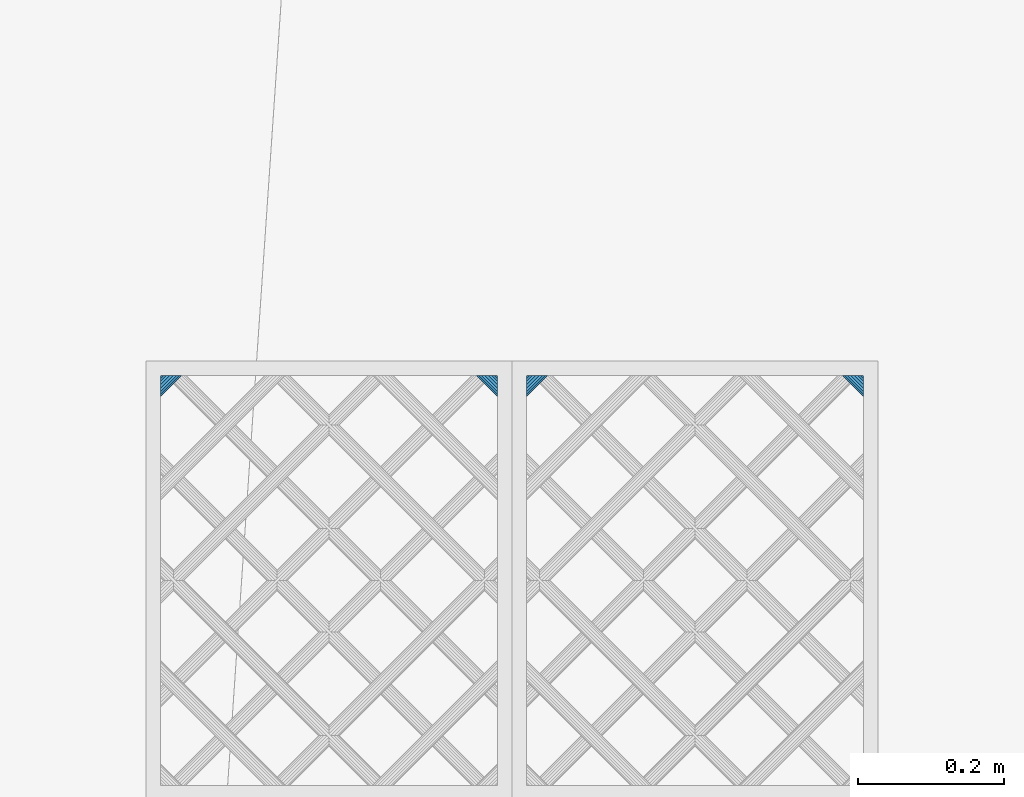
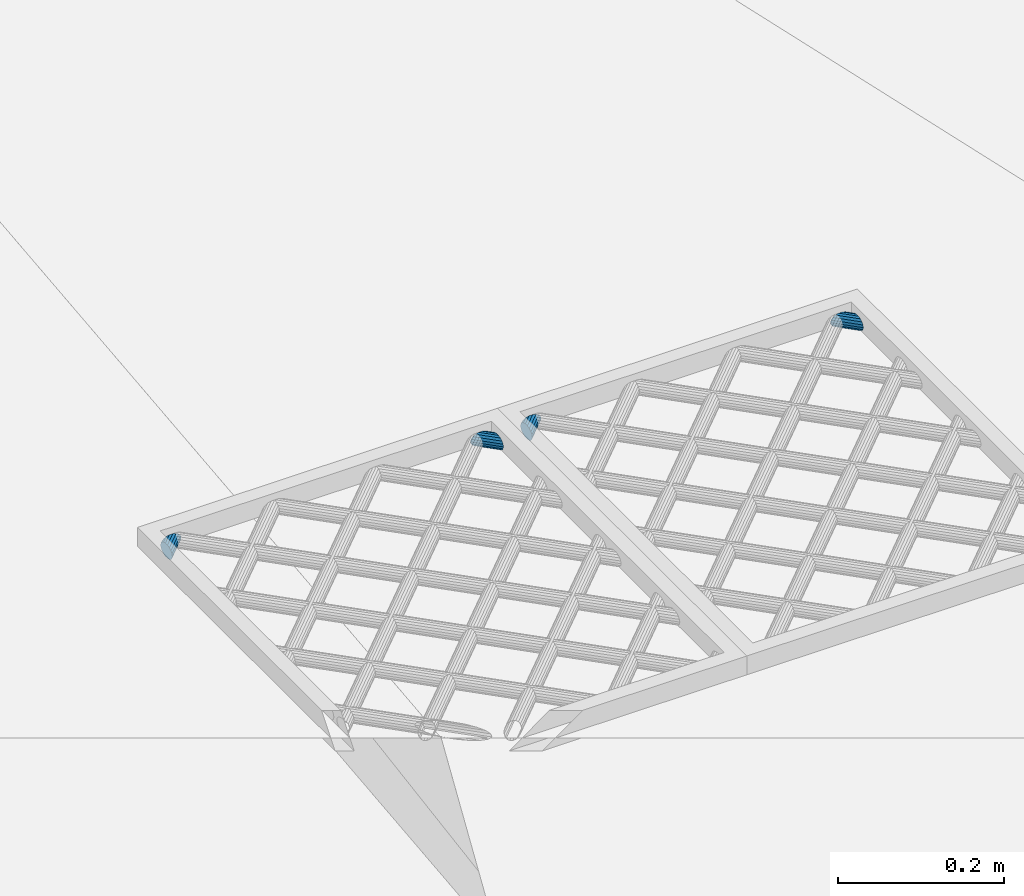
# One storey, part 87 of 133: 4 members, 2 elements without a shape of their own.
"""IFC2X3 building model written with IfcOpenShell, lengths in centimetres."""

from ifc_helpers import new_model, entity, si_unit, converted_unit, direction, frame, origin, origin_with_axes, place, context, subcontext, project, spatial, faceted_brep, material, type_object, element, aggregate, save


model = new_model("IFC2X3")

# Units and contexts
model_context = context("Model", 3, precision=0.0001, world=origin(), true_north=direction((0.225632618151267, 0.974212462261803, 0.0)))
body_context = subcontext(model_context, "Body", "Model", "MODEL_VIEW")
ifc_project = project(units=[si_unit("LENGTHUNIT", "METRE", prefix="CENTI"), si_unit("AREAUNIT", "SQUARE_METRE", prefix="CENTI"), si_unit("VOLUMEUNIT", "CUBIC_METRE", prefix="CENTI"), converted_unit("PLANEANGLEUNIT", "DEGREE", entity("IfcRatioMeasure", 0.0174532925), si_unit("PLANEANGLEUNIT", "RADIAN"), dimensions=[0, 0, 0, 0, 0, 0, 0])], contexts=[model_context])

# Site, building, storey
site_placement = place(None, origin_with_axes())
site = spatial("IfcSite", under=ifc_project, at=site_placement, Name="Default Site", CompositionType="ELEMENT")
building_placement = place(site_placement, origin_with_axes())
building = spatial("IfcBuilding", under=site, at=building_placement, Name="Default Building", CompositionType="ELEMENT")
storey_placement = place(building_placement, frame((0.0, 0.0, -291.400371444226), z_axis=(0.0, 0.0, 1.0), x_axis=(1.0, 0.0, 0.0)))
storey = spatial("IfcBuildingStorey", under=building, at=storey_placement, Name="Rez-de-Jardin", CompositionType="ELEMENT", Elevation=-291.400371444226)

# Assembly, members
building_element_proxy_type = type_object("IfcBuildingElementProxyType", Name="Type Object", PredefinedType="NOTDEFINED")
assembly_1_placement = place(storey_placement, frame((-26.2717802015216, 1298.33524038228, 113.0), z_axis=(0.0, 1.0, -2.38697950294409e-15), x_axis=(1.0, 0.0, 0.0)))
assembly_1 = element("IfcElementAssembly", 1, at=assembly_1_placement, inside=storey, type_object=building_element_proxy_type, Name="Panneau 326484", ObjectType="Precast panel", PredefinedType="USERDEFINED")
ifc_material = material(Name="Aluminium satiné")
member_1_placement = place(assembly_1_placement, frame((4.83145155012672, 0.342020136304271, 57.9999983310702), z_axis=(1.16937634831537e-15, -1.43218776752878e-15, 1.0), x_axis=(0.632455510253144, -0.774596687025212, -1.84894641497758e-15)))
member_1 = element("IfcMember", 2, at=member_1_placement, material=ifc_material, Name="4294966901", context=body_context, shape_type="Brep", body=[
    faceted_brep([(1.38777878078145e-15, -3.2612801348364e-14, -3.21964677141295e-13), (-0.388289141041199, -3.2612801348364e-14, -3.22682602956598e-13), (-0.799165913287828, -0.150249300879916, -3.23442292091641e-13), (-1.18307220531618, -0.432625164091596, -3.24152114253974e-13), (-1.49370349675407, -0.81306926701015, -3.24726454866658e-13), (-1.69359304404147, -1.24569440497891, -3.25096039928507e-13), (-1.75863119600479, -1.67831950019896, -3.25216291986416e-13), (-1.68097334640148, -2.05876360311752, -3.25072706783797e-13), (-1.46998625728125, -2.34113956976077, -3.24682602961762e-13), (-1.15111801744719, -2.49138864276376, -3.2409303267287e-13), (-0.762828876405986, -2.49138864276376, -3.23375106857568e-13), (-0.351952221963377, -2.34113948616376, -3.22615417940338e-13), (0.0319541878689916, -2.0587634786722, -3.21905595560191e-13), (0.342585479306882, -1.67831937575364, -3.21331254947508e-13), (0.542474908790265, -1.24569438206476, -3.20961670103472e-13), (0.607513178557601, -0.813069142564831, -3.2084141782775e-13), (0.529855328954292, -0.432625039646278, -3.20985003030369e-13), (0.318868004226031, -0.15024936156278, -3.21375107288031e-13), (-1.52583949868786, -2.40954554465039, -2.91673541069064), (-1.26091183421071, -2.62585806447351, -2.83144712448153), (-1.02793833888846, -2.81608011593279, -2.58587598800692), (-0.855019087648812, -2.95726808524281, -2.20962762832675), (-0.763010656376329, -3.03239265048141, -1.74809694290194), (-0.76301065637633, -3.03239265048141, -1.25694870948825), (-0.855019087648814, -2.95726808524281, -0.795418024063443), (-1.02793833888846, -2.81608011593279, -0.419175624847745), (-1.26091183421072, -2.62585806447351, -0.173598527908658), (-1.52583949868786, -2.40954554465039, -0.0883102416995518), (-1.79076716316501, -2.19323302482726, -0.173598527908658), (-2.02374065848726, -2.00301097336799, -0.419175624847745), (-2.19665990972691, -1.86182300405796, -0.795418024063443), (-2.28866834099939, -1.78669843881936, -1.25694870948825), (-2.28866834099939, -1.78669843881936, -1.74809694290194), (-2.1966599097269, -1.86182300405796, -2.20962762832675), (-2.02374065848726, -2.00301097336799, -2.58587598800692), (-1.790767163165, -2.19323302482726, -2.83144712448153), (0.318868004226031, -0.15024936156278, -3.21964677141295e-13), (0.529855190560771, -0.432625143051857, 1.67625041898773e-07), (-1.26091018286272, -2.62585683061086, -2.83144912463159), (-1.52583815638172, -2.40954454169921, -2.91673703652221), (0.529855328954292, -0.432625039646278, -3.21964677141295e-13), (0.607513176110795, -0.813069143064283, 1.93403712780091e-09), (-1.02793834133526, -2.81608011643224, -2.58587598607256), (-1.26090971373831, -2.62585763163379, -2.8314488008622), (0.607513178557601, -0.813069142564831, -3.33066907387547e-13), (0.542475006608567, -1.24569439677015, -5.04753142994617e-08), (-0.855017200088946, -2.95726836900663, -2.20962860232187), (-1.02793833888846, -2.81608011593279, -2.58587598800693), (0.542474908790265, -1.24569438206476, -3.33066907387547e-13), (0.342585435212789, -1.67831935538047, 1.21062237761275e-08), (-0.763009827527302, -3.03239303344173, -1.74809717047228), (-0.855018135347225, -2.95726852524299, -2.20962788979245), (0.342585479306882, -1.67831937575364, -3.33066907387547e-13), (0.0319541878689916, -2.0587634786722, -3.33066907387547e-13), (-0.35195221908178, -2.34113949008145, 1.21181951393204e-09), (-0.85501916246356, -2.95726798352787, -0.795418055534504), (-0.763010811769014, -3.03239243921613, -1.25694877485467), (-0.351952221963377, -2.34113948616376, -3.33066907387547e-13), (-0.762828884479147, -2.49138862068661, -1.19953087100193e-08), (-1.02793824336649, -2.81608037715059, -0.419175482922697), (-0.855019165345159, -2.9572678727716, -0.795418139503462), (-0.762828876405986, -2.49138864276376, -3.33066907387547e-13), (-1.15111801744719, -2.49138864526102, 1.93403279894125e-09), (-1.26091183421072, -2.62585770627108, -0.17359880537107), (-1.02793833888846, -2.81608047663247, -0.419175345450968), (-1.15111801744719, -2.49138864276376, -3.33066907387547e-13), (-1.46998625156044, -2.3411395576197, -1.30229216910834e-08), (-1.52583917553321, -2.40954485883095, -0.0883109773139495), (-1.2609116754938, -2.62585772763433, -0.173598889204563), (-1.46998625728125, -2.34113956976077, -3.33066907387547e-13), (-1.68097335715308, -2.05876361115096, 1.3022254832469e-08), (-1.79076687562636, -2.19323280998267, -0.173598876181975), (-1.52583890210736, -2.40954509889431, -0.0883109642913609), (-1.68097334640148, -2.05876360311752, -3.33066907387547e-13), (-1.75863119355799, -1.67831949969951, -1.9346991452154e-09), (-2.02374100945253, -2.00301104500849, -0.419175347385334), (-1.79076680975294, -2.19323295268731, -0.173598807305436), (-1.75863119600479, -1.67831950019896, -3.33066907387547e-13), (-1.69359306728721, -1.24569440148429, 1.19946423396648e-08), (-2.19665970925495, -1.86182303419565, -0.795418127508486), (-2.02374095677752, -2.00301092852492, -0.419175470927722), (-1.69359304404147, -1.24569440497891, -3.33066907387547e-13), (-1.49370349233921, -0.813069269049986, -1.21248560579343e-09), (-2.28866809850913, -1.78669855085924, -1.25694877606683), (-2.19665979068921, -1.86182305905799, -0.795418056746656), (-1.49370349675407, -0.81306926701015, -3.33066907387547e-13), (-1.18307220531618, -0.432625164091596, -3.33066907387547e-13), (-0.799165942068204, -0.15024926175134, -1.21068900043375e-08), (-2.19666056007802, -1.86182211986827, -2.20962790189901), (-2.28866891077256, -1.78669766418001, -1.74809718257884), (-0.799165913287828, -0.150249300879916, -3.33066907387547e-13), (-0.388289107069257, -9.29009245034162e-08, 5.04746483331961e-08), (-2.02374062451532, -2.00301106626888, -2.58587593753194), (-2.19666053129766, -1.86182130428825, -2.20962855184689), (-0.388289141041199, -3.2612801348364e-14, -3.33066907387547e-13), (1.36208123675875e-15, 2.49722821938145e-09, -1.9346919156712e-09), (-1.79076716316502, -2.19323085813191, -2.83144880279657), (-2.02374065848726, -2.00301097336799, -2.58587598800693), (0.31886807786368, -0.150249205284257, -1.67625685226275e-07), (-1.52583871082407, -2.40954387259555, -2.91673720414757), (-1.79076621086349, -2.19323100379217, -2.83144929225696)], [[[0, 1, 2, 3, 4, 5, 6, 7, 8, 9, 10, 11, 12, 13, 14, 15, 16, 17]], [[18, 19, 20, 21, 22, 23, 24, 25, 26, 27, 28, 29, 30, 31, 32, 33, 34, 35]], [[36, 37, 38, 39]], [[40, 41, 42, 43]], [[44, 45, 46, 47]], [[48, 49, 50, 51]], [[52, 53, 23, 22]], [[53, 54, 55, 56]], [[57, 58, 59, 60]], [[61, 62, 63, 64]], [[65, 66, 67, 68]], [[69, 70, 71, 72]], [[73, 74, 75, 76]], [[77, 78, 79, 80]], [[81, 82, 83, 84]], [[85, 86, 32, 31]], [[86, 87, 88, 89]], [[90, 91, 92, 93]], [[94, 95, 96, 97]], [[0, 98, 99, 100]]]),
])
member_2_placement = place(assembly_1_placement, frame((47.999998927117, 0.342020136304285, 55.168551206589), z_axis=(0.999999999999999, 0.0, 0.0), x_axis=(0.0, -0.774602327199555, -0.632448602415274)))
member_2 = element("IfcMember", 3, at=member_2_placement, material=ifc_material, Name="4294966893", context=body_context, shape_type="Brep", body=[
    faceted_brep([(5.55111512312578e-15, 7.7715611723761e-14, 0.0), (-0.388286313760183, 7.7715611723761e-14, 0.0), (-0.799164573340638, -0.150256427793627, 0.0), (-1.18306811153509, -0.432635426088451, 0.0), (-1.49369412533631, -0.813079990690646, 0.0), (-1.69357946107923, -1.24570647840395, 0.0), (-1.75861293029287, -1.67833114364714, 0.0), (-1.68095263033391, -2.05877570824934, 0.0), (-1.46996349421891, -2.34115037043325, 0.0), (-1.15109344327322, -2.49139602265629, 0.0), (-0.762803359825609, -2.49139140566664, 0.0), (-0.351928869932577, -2.34113959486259, 0.0), (0.0319746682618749, -2.05876059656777, 0.0), (0.342600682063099, -1.67831603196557, 0.0), (0.54248601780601, -1.24568954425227, 0.0), (0.607523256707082, -0.813060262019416, 0.0), (0.529859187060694, -0.432620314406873, 0.0), (0.318870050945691, -0.150245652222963, 0.0), (-1.52581518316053, -2.40955568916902, -2.91673839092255), (-1.26088558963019, -2.6258658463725, -2.83145010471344), (-1.0279103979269, -2.81608582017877, -2.58587598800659), (-0.854989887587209, -2.95727224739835, -2.20963060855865), (-0.76298078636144, -3.03239599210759, -1.74809992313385), (-0.76298078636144, -3.03239599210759, -1.25694870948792), (-0.854989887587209, -2.95727224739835, -0.79541802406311), (-1.0279103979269, -2.81608582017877, -0.419172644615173), (-1.26088558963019, -2.6258658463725, -0.173598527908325), (-1.52581518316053, -2.40955568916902, -0.0883102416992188), (-1.79074477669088, -2.19324553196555, -0.173598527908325), (-2.02371996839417, -2.00302555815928, -0.419172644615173), (-2.19664047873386, -1.8618391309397, -0.79541802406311), (-2.28864957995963, -1.78671538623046, -1.25694870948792), (-2.28864957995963, -1.78671538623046, -1.74809992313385), (-2.19664047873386, -1.8618391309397, -2.20963060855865), (-2.02371996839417, -2.00302555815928, -2.58587598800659), (-1.79074477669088, -2.19324553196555, -2.83145010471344), (0.529859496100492, -0.432620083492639, -3.74318491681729e-07), (-1.26088647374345, -2.62586650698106, -2.83144903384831), (-1.52581637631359, -2.40955658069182, -2.91673694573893), (0.607521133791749, -0.813060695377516, 1.67831502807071e-06), (-1.02791252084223, -2.81608625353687, -2.58587430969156), (-1.26088700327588, -2.62586613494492, -2.83144898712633), (0.542487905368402, -1.24568982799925, -9.73995122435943e-07), (-0.854989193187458, -2.95727235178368, -2.20963096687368), (0.342600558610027, -1.67831597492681, 3.38953667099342e-08), (-0.762981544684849, -3.03239564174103, -1.74809971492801), (-0.854990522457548, -2.95727195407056, -2.20963043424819), (0.0319746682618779, -2.05876059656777, 0.0), (-0.762980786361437, -3.03239599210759, -1.25694870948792), (-0.762980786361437, -3.03239599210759, -1.74809992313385), (-0.351928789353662, -2.34113970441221, 3.38953656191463e-08), (-0.854989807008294, -2.95727235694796, -0.795417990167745), (-0.76298078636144, -3.03239599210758, -1.25694870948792), (-0.762803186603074, -2.49139187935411, 2.57365066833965e-07), (-1.02791063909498, -2.81608516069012, -0.419173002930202), (-0.854989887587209, -2.95727224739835, -0.79541802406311), (-1.15109344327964, -2.49139530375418, -5.56859190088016e-07), (-1.26088558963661, -2.62586512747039, -0.173599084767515), (-1.02791039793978, -2.81608437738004, -0.419173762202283), (-1.4699633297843, -2.34115002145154, -3.74318492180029e-07), (-1.52581501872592, -2.40955534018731, -0.0883106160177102), (-1.26088558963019, -2.6258658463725, -0.173598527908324), (-1.68095293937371, -2.05877593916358, 3.74318494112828e-07), (-1.79074508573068, -2.19324576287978, -0.173598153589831), (-1.52581518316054, -2.40955568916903, -0.0883102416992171), (-1.75861363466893, -1.67833128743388, 5.56859189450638e-07), (-2.02371925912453, -2.0030254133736, -0.419173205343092), (-1.69357896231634, -1.24570655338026, -2.57365064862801e-07), (-2.19663997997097, -1.86183920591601, -0.795418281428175), (-2.02371877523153, -2.00302573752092, -0.419173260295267), (-1.49369400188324, -0.813080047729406, -3.38953667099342e-08), (-2.28864945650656, -1.78671544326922, -1.25694874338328), (-1.18306811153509, -0.432635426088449, 0.0), (-0.799164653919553, -0.15025631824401, -3.38953656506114e-08), (-2.19664014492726, -1.86183958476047, -2.20963046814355), (-2.28864916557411, -1.78671594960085, -1.74809974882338), (-0.388285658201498, -1.79266468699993e-06, 9.7399512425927e-07), (-2.02371931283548, -2.00302735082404, -2.58587501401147), (-2.19664006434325, -1.86184026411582, -2.20962999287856), (-1.93392206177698e-11, 2.16669543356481e-06, -1.67831503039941e-06), (-1.79074477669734, -2.19324480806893, -2.83145066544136), (0.318869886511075, -0.150246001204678, 3.74318491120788e-07), (-1.52581598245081, -2.40955738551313, -2.91673657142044), (-1.79074541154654, -2.19324687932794, -2.83144865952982)], [[[0, 1, 2, 3, 4, 5, 6, 7, 8, 9, 10, 11, 12, 13, 14, 15, 16, 17]], [[18, 19, 20, 21, 22, 23, 24, 25, 26, 27, 28, 29, 30, 31, 32, 33, 34, 35]], [[17, 36, 37, 38]], [[16, 39, 40, 41]], [[15, 42, 43, 20]], [[14, 44, 45, 46]], [[13, 47, 48, 49]], [[12, 50, 51, 52]], [[11, 53, 54, 55]], [[10, 56, 57, 58]], [[9, 59, 60, 61]], [[8, 62, 63, 64]], [[7, 65, 66, 28]], [[6, 67, 68, 69]], [[5, 70, 71, 30]], [[4, 72, 32, 31]], [[3, 73, 74, 75]], [[2, 76, 77, 78]], [[1, 79, 80, 34]], [[0, 81, 82, 83]]]),
])
aggregate(assembly_1, [member_1, member_2])

assembly_2_placement = place(storey_placement, frame((23.728219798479, 1298.33524038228, 113.0), z_axis=(0.0, 1.0, -2.38697950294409e-15), x_axis=(1.0, 0.0, 0.0)))
assembly_2 = element("IfcElementAssembly", 4, at=assembly_2_placement, inside=storey, type_object=building_element_proxy_type, Name="Panneau 326485", ObjectType="Precast panel", PredefinedType="USERDEFINED")
member_3_placement = place(assembly_2_placement, frame((4.83145155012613, 0.342020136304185, 57.9999983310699), z_axis=(1.16937634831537e-15, -1.43218776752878e-15, 1.0), x_axis=(0.632455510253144, -0.774596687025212, -1.84894641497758e-15)))
member_3 = element("IfcMember", 5, at=member_3_placement, material=ifc_material, Name="4294966884", context=body_context, shape_type="Brep", body=[
    faceted_brep([(1.38777878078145e-15, -2.15105711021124e-14, -3.21964677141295e-13), (-0.388289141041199, -2.15105711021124e-14, -3.22682602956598e-13), (-0.799165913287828, -0.150249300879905, -3.23442292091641e-13), (-1.18307220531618, -0.432625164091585, -3.24152114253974e-13), (-1.49370349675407, -0.813069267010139, -3.24726454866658e-13), (-1.69359304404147, -1.2456944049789, -3.25096039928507e-13), (-1.75863119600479, -1.67831950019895, -3.25216291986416e-13), (-1.68097334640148, -2.05876360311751, -3.25072706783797e-13), (-1.46998625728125, -2.34113956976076, -3.24682602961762e-13), (-1.15111801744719, -2.49138864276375, -3.2409303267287e-13), (-0.762828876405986, -2.49138864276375, -3.23375106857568e-13), (-0.351952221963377, -2.34113948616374, -3.22615417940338e-13), (0.0319541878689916, -2.05876347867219, -3.21905595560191e-13), (0.342585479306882, -1.67831937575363, -3.21331254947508e-13), (0.542474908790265, -1.24569438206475, -3.20961670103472e-13), (0.607513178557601, -0.81306914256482, -3.2084141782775e-13), (0.529855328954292, -0.432625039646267, -3.20985003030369e-13), (0.318868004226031, -0.150249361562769, -3.21375107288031e-13), (-1.52583949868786, -2.40954554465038, -2.91673541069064), (-1.26091183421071, -2.6258580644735, -2.83144712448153), (-1.02793833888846, -2.81608011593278, -2.58587598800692), (-0.855019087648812, -2.9572680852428, -2.20962762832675), (-0.763010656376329, -3.0323926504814, -1.74809694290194), (-0.76301065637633, -3.0323926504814, -1.25694870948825), (-0.855019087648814, -2.9572680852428, -0.795418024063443), (-1.02793833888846, -2.81608011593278, -0.419175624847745), (-1.26091183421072, -2.6258580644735, -0.173598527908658), (-1.52583949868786, -2.40954554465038, -0.0883102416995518), (-1.79076716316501, -2.19323302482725, -0.173598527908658), (-2.02374065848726, -2.00301097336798, -0.419175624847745), (-2.19665990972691, -1.86182300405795, -0.795418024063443), (-2.28866834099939, -1.78669843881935, -1.25694870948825), (-2.28866834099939, -1.78669843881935, -1.74809694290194), (-2.1966599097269, -1.86182300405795, -2.20962762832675), (-2.02374065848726, -2.00301097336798, -2.58587598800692), (-1.790767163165, -2.19323302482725, -2.83144712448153), (0.318868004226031, -0.150249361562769, -3.21964677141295e-13), (0.529855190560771, -0.432625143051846, 1.67625041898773e-07), (-1.26091018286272, -2.62585683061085, -2.83144912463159), (-1.52583815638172, -2.4095445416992, -2.91673703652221), (0.529855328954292, -0.432625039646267, -3.21964677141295e-13), (0.607513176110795, -0.813069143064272, 1.93403715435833e-09), (-1.02793834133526, -2.81608011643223, -2.58587598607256), (-1.26090971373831, -2.62585763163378, -2.8314488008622), (0.607513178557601, -0.81306914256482, -3.33066907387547e-13), (0.542475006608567, -1.24569439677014, -5.04753142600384e-08), (-0.855017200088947, -2.95726836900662, -2.20962860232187), (-1.02793833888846, -2.81608011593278, -2.58587598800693), (0.542474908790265, -1.24569438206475, -3.33066907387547e-13), (0.342585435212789, -1.67831935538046, 1.21062237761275e-08), (-0.763009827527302, -3.03239303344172, -1.74809717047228), (-0.855018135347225, -2.95726852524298, -2.20962788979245), (0.342585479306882, -1.67831937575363, -3.33066907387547e-13), (0.0319541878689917, -2.05876347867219, -3.33066907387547e-13), (0.0319541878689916, -2.05876347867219, -3.33066907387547e-13), (-0.35195221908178, -2.34113949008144, 1.21181951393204e-09), (-0.85501916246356, -2.95726798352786, -0.795418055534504), (-0.763010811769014, -3.03239243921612, -1.25694877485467), (-0.351952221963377, -2.34113948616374, -3.33066907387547e-13), (-0.762828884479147, -2.4913886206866, -1.19953085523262e-08), (-1.02793824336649, -2.81608037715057, -0.419175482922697), (-0.855019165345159, -2.95726787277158, -0.795418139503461), (-0.762828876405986, -2.49138864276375, -3.33066907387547e-13), (-1.15111801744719, -2.49138864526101, 1.93403279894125e-09), (-1.26091183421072, -2.62585770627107, -0.17359880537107), (-1.02793833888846, -2.81608047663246, -0.419175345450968), (-1.15111801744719, -2.49138864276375, -3.33066907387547e-13), (-1.46998625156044, -2.34113955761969, -1.30229216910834e-08), (-1.52583917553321, -2.40954485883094, -0.0883109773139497), (-1.2609116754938, -2.62585772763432, -0.173598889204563), (-1.46998625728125, -2.34113956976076, -3.33066907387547e-13), (-1.68097335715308, -2.05876361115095, 1.3022254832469e-08), (-1.79076687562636, -2.19323280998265, -0.173598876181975), (-1.52583890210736, -2.4095450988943, -0.0883109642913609), (-1.68097334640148, -2.05876360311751, -3.33066907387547e-13), (-1.75863119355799, -1.6783194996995, -1.9346991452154e-09), (-2.02374100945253, -2.00301104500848, -0.419175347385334), (-1.79076680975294, -2.1932329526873, -0.173598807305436), (-1.75863119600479, -1.67831950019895, -3.33066907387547e-13), (-1.69359306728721, -1.24569440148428, 1.19946424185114e-08), (-2.19665970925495, -1.86182303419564, -0.795418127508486), (-2.02374095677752, -2.0030109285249, -0.419175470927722), (-1.69359304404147, -1.2456944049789, -3.33066907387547e-13), (-1.49370349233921, -0.813069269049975, -1.21248560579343e-09), (-2.28866809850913, -1.78669855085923, -1.25694877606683), (-2.19665979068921, -1.86182305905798, -0.795418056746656), (-1.49370349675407, -0.813069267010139, -3.33066907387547e-13), (-1.18307220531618, -0.432625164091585, -3.33066907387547e-13), (-0.799165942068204, -0.150249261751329, -1.21068899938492e-08), (-2.19666056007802, -1.86182211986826, -2.20962790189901), (-2.28866891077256, -1.78669766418, -1.74809718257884), (-0.799165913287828, -0.150249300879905, -3.33066907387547e-13), (-0.388289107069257, -9.2900913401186e-08, 5.04746483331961e-08), (-2.02374062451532, -2.00301106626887, -2.58587593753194), (-2.19666053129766, -1.86182130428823, -2.20962855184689), (-0.388289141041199, -2.15105711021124e-14, -3.33066907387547e-13), (1.36208123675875e-15, 2.49723932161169e-09, -1.9346919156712e-09), (-1.79076716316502, -2.1932308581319, -2.83144880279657), (-2.02374065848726, -2.00301097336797, -2.58587598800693), (0.31886807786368, -0.150249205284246, -1.67625685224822e-07), (-1.52583871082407, -2.40954387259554, -2.91673720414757), (-1.79076621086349, -2.19323100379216, -2.83144929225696)], [[[0, 1, 2, 3, 4, 5, 6, 7, 8, 9, 10, 11, 12, 13, 14, 15, 16, 17]], [[18, 19, 20, 21, 22, 23, 24, 25, 26, 27, 28, 29, 30, 31, 32, 33, 34, 35]], [[36, 37, 38, 39]], [[40, 41, 42, 43]], [[44, 45, 46, 47]], [[48, 49, 50, 51]], [[52, 53, 23, 22]], [[54, 55, 56, 57]], [[58, 59, 60, 61]], [[62, 63, 64, 65]], [[66, 67, 68, 69]], [[70, 71, 72, 73]], [[74, 75, 76, 77]], [[78, 79, 80, 81]], [[82, 83, 84, 85]], [[86, 87, 32, 31]], [[87, 88, 89, 90]], [[91, 92, 93, 94]], [[95, 96, 97, 98]], [[0, 99, 100, 101]]]),
])
member_4_placement = place(assembly_2_placement, frame((47.9999989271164, 0.3420201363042, 55.1685512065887), z_axis=(0.999999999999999, 0.0, 0.0), x_axis=(0.0, -0.774602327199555, -0.632448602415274)))
member_4 = element("IfcMember", 6, at=member_4_placement, material=ifc_material, Name="4294966876", context=body_context, shape_type="Brep", body=[
    faceted_brep([(5.55111512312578e-15, 7.7715611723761e-14, -1.11022302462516e-14), (-0.388286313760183, 7.7715611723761e-14, -1.11022302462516e-14), (-0.799164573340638, -0.150256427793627, -1.11022302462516e-14), (-1.18306811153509, -0.432635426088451, -1.11022302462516e-14), (-1.49369412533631, -0.813079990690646, -1.11022302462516e-14), (-1.69357946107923, -1.24570647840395, -1.11022302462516e-14), (-1.75861293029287, -1.67833114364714, -1.11022302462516e-14), (-1.68095263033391, -2.05877570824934, -1.11022302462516e-14), (-1.46996349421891, -2.34115037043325, -1.11022302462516e-14), (-1.15109344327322, -2.49139602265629, -1.11022302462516e-14), (-0.762803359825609, -2.49139140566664, -1.11022302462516e-14), (-0.351928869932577, -2.34113959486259, -1.11022302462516e-14), (0.0319746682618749, -2.05876059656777, -1.11022302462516e-14), (0.342600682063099, -1.67831603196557, -1.11022302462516e-14), (0.54248601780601, -1.24568954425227, -1.11022302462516e-14), (0.607523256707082, -0.813060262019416, -1.11022302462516e-14), (0.529859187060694, -0.432620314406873, -1.11022302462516e-14), (0.318870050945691, -0.150245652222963, -1.11022302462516e-14), (-1.52581518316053, -2.40955568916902, -2.91673839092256), (-1.26088558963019, -2.6258658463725, -2.83145010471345), (-1.0279103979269, -2.81608582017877, -2.5858759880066), (-0.854989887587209, -2.95727224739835, -2.20963060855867), (-0.76298078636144, -3.03239599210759, -1.74809992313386), (-0.76298078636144, -3.03239599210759, -1.25694870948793), (-0.854989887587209, -2.95727224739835, -0.795418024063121), (-1.0279103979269, -2.81608582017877, -0.419172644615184), (-1.26088558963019, -2.6258658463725, -0.173598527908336), (-1.52581518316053, -2.40955568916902, -0.0883102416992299), (-1.79074477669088, -2.19324553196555, -0.173598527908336), (-2.02371996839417, -2.00302555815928, -0.419172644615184), (-2.19664047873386, -1.8618391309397, -0.795418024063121), (-2.28864957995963, -1.78671538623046, -1.25694870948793), (-2.28864957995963, -1.78671538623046, -1.74809992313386), (-2.19664047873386, -1.8618391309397, -2.20963060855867), (-2.02371996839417, -2.00302555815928, -2.5858759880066), (-1.79074477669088, -2.19324553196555, -2.83145010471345), (0.529859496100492, -0.432620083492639, -3.7431850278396e-07), (-1.26088647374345, -2.62586650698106, -2.83144903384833), (-1.52581637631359, -2.40955658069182, -2.91673694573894), (0.607521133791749, -0.813060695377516, 1.67831501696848e-06), (-1.02791252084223, -2.81608625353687, -2.58587430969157), (-1.26088700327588, -2.62586613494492, -2.83144898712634), (0.542487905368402, -1.24568982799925, -9.73995133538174e-07), (-0.854989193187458, -2.95727235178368, -2.20963096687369), (0.342600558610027, -1.67831597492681, 3.38953556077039e-08), (-0.762981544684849, -3.03239564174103, -1.74809971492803), (-0.854990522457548, -2.95727195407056, -2.2096304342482), (0.0319746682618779, -2.05876059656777, -1.11022302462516e-14), (-0.762980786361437, -3.03239599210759, -1.25694870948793), (-0.762980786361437, -3.03239599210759, -1.74809992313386), (-0.351928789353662, -2.34113970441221, 3.38953545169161e-08), (-0.854989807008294, -2.95727235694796, -0.795417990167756), (-0.76298078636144, -3.03239599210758, -1.25694870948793), (-0.762803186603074, -2.49139187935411, 2.57365055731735e-07), (-1.02791063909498, -2.81608516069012, -0.419173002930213), (-0.854989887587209, -2.95727224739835, -0.795418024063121), (-1.15109344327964, -2.49139530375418, -5.56859201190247e-07), (-1.26088558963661, -2.62586512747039, -0.173599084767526), (-1.02791039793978, -2.81608437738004, -0.419173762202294), (-1.4699633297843, -2.34115002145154, -3.74318503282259e-07), (-1.52581501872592, -2.40955534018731, -0.0883106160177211), (-1.26088558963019, -2.6258658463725, -0.173598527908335), (-1.68095293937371, -2.05877593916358, 3.74318483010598e-07), (-1.79074508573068, -2.19324576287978, -0.173598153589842), (-1.52581518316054, -2.40955568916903, -0.0883102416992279), (-1.75861363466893, -1.67833128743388, 5.56859178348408e-07), (-2.02371925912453, -2.0030254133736, -0.419173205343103), (-1.69357896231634, -1.24570655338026, -2.57365075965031e-07), (-2.19663997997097, -1.86183920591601, -0.795418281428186), (-2.02371877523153, -2.00302573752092, -0.419173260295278), (-1.49369400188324, -0.813080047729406, -3.38953778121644e-08), (-2.28864945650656, -1.78671544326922, -1.25694874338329), (-1.18306811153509, -0.432635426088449, -1.11022302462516e-14), (-0.799164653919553, -0.15025631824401, -3.38953767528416e-08), (-2.19664014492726, -1.86183958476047, -2.20963046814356), (-2.28864916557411, -1.78671594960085, -1.74809974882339), (-0.388285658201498, -1.79266468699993e-06, 9.7399511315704e-07), (-2.02371931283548, -2.00302735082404, -2.58587501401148), (-2.19664006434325, -1.86184026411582, -2.20962999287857), (-1.93392206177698e-11, 2.16669543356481e-06, -1.67831504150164e-06), (-1.79074477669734, -2.19324480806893, -2.83145066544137), (0.318869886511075, -0.150246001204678, 3.74318480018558e-07), (-1.52581598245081, -2.40955738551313, -2.91673657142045), (-1.79074541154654, -2.19324687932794, -2.83144865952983)], [[[0, 1, 2, 3, 4, 5, 6, 7, 8, 9, 10, 11, 12, 13, 14, 15, 16, 17]], [[18, 19, 20, 21, 22, 23, 24, 25, 26, 27, 28, 29, 30, 31, 32, 33, 34, 35]], [[17, 36, 37, 38]], [[16, 39, 40, 41]], [[15, 42, 43, 20]], [[14, 44, 45, 46]], [[13, 47, 48, 49]], [[12, 50, 51, 52]], [[11, 53, 54, 55]], [[10, 56, 57, 58]], [[9, 59, 60, 61]], [[8, 62, 63, 64]], [[7, 65, 66, 28]], [[6, 67, 68, 69]], [[5, 70, 71, 30]], [[4, 72, 32, 31]], [[3, 73, 74, 75]], [[2, 76, 77, 78]], [[1, 79, 80, 34]], [[0, 81, 82, 83]]]),
])
aggregate(assembly_2, [member_3, member_4])

save(model, "model.ifc")
